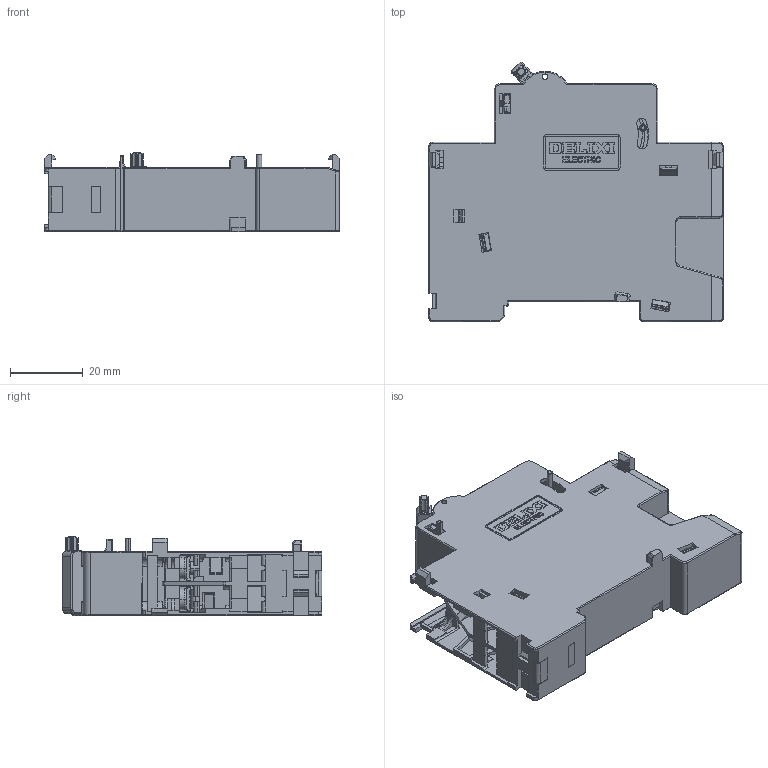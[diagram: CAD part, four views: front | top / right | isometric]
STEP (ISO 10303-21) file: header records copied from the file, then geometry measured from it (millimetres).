
FILE_DESCRIPTION((''),'2;1');
FILE_NAME('2297008300_SW0001','2023-11-08T',('dufeng.zhai'),(''),'PRO/ENGINEER BY PARAMETRIC TECHNOLOGY CORPORATION, 2015440','PRO/ENGINEER BY PARAMETRIC TECHNOLOGY CORPORATION, 2015440','');
FILE_SCHEMA(('CONFIG_CONTROL_DESIGN'));
Products named in the file (1): 2297008300_SW0001
Bounding box: 80.8 x 71.31 x 21.85 mm (x, y, z)
Volume: 56266.6 mm3; surface area: 38620.2 mm2
Topology: 2 solids, 2 shells, 2657 faces, 7510 edges, 4800 vertices
Faces by surface type: plane 1719, cylinder 628, cone 91, bspline 67, torus 66, sphere 43, extrusion 43
Entity records: 92061 total; most frequent: CARTESIAN_POINT 23515, ORIENTED_EDGE 15016, DIRECTION 13409, EDGE_CURVE 7508, VECTOR 5621, LINE 5578, VERTEX_POINT 4800, AXIS2_PLACEMENT_3D 3894
